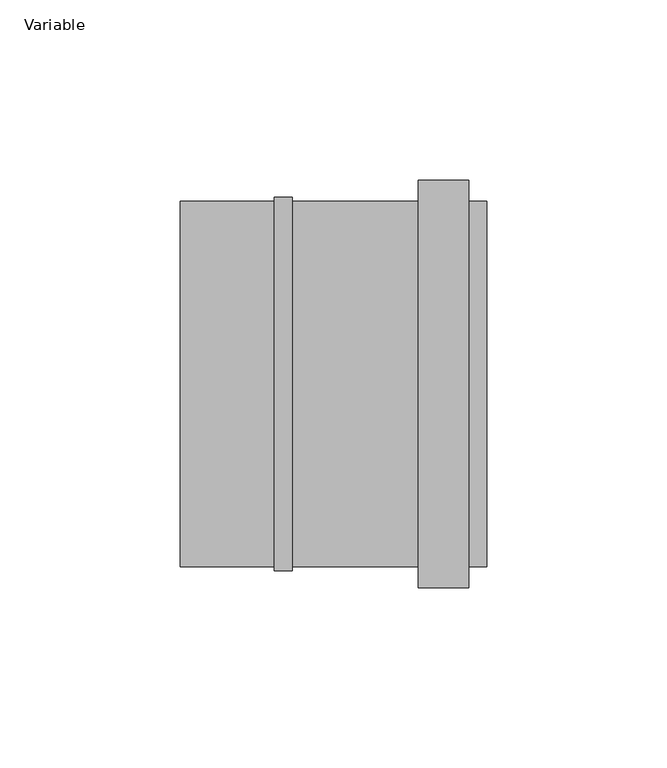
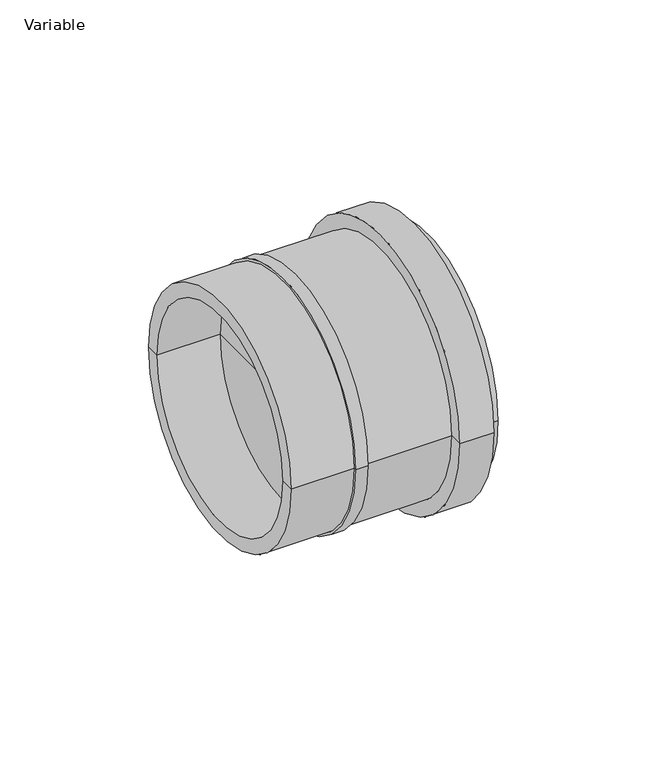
"""IFC4 building model written with IfcOpenShell, lengths in millimetres: pipe fitting geometry, AliaxisFR_Friaphon_MixedCoupling_FR : Variable."""

from ifc_helpers import new_model, si_unit, frame, origin, place, context, project, spatial, polyline, circle_curve, source, transform, mapped, element, save
from ifc_brep_helpers import plane_surface, cylinder_surface, revolved_surface, advanced_brep


def variable_e1d51fd6(model_context):
    return source(origin(), model_context, "Body", "AdvancedBrep", [
        advanced_brep(
        [(57.0, -50.75, 0.0), (57.0, 50.75, 0.0), (57.0, 45.0, 0.0), (57.0, -45.0, 0.0), (52.0, -50.75, 0.0), (52.0, 50.75, 0.0), (52.0, -56.5, 0.0), (52.0, 56.5, 0.0), (38.0, -56.5, 0.0), (38.0, 56.5, 0.0), (38.0, -50.75, 0.0), (38.0, 50.75, 0.0), (3.0, -50.75, 0.0), (3.0, 50.75, 0.0), (-28.0, -45.0, 0.0), (-28.0, 45.0, 0.0), (-28.0, 50.75, 0.0), (-28.0, -50.75, 0.0), (-2.0, -45.0, 0.0), (-2.0, 45.0, 0.0), (-2.0, 0.0, 0.0), (2.0, 45.0, 0.0), (2.0, -45.0, 0.0), (3.0, -51.75, 0.0), (3.0, 51.75, 0.0), (-2.0, -51.75, 0.0), (-2.0, 51.75, 0.0), (-2.0, -50.75, 0.0), (-2.0, 50.75, 0.0), (2.0, 0.0, 0.0)],
        [
            (0, 1, circle_curve(frame((57.0, 0.0, 0.0), z_axis=(1.0, 0.0, 0.0), x_axis=(0.0, 1.0, 0.0)), 50.75)),
            (1, 2),
            (2, 3, circle_curve(frame((57.0, 0.0, 0.0), z_axis=(-1.0, 0.0, 0.0), x_axis=(0.0, 1.0, 0.0)), 45.0)),
            (3, 0),
            (1, 0, circle_curve(frame((57.0, 0.0, 0.0), z_axis=(1.0, 0.0, 0.0), x_axis=(0.0, 1.0, 0.0)), 50.75)),
            (3, 2, circle_curve(frame((57.0, 0.0, 0.0), z_axis=(-1.0, 0.0, 0.0), x_axis=(0.0, 1.0, 0.0)), 45.0)),
            (4, 5, circle_curve(frame((52.0, 0.0, 0.0), z_axis=(1.0, 0.0, 0.0), x_axis=(0.0, 1.0, 0.0)), 50.75)),
            (5, 1),
            (0, 4),
            (5, 4, circle_curve(frame((52.0, 0.0, 0.0), z_axis=(1.0, 0.0, 0.0), x_axis=(0.0, 1.0, 0.0)), 50.75)),
            (6, 7, circle_curve(frame((52.0, 0.0, 0.0), z_axis=(1.0, 0.0, 0.0), x_axis=(0.0, 1.0, 0.0)), 56.5)),
            (7, 5),
            (4, 6),
            (7, 6, circle_curve(frame((52.0, 0.0, 0.0), z_axis=(1.0, 0.0, 0.0), x_axis=(0.0, 1.0, 0.0)), 56.5)),
            (8, 9, circle_curve(frame((38.0, 0.0, 0.0), z_axis=(1.0, 0.0, 0.0), x_axis=(0.0, 1.0, 0.0)), 56.5)),
            (9, 7),
            (6, 8),
            (9, 8, circle_curve(frame((38.0, 0.0, 0.0), z_axis=(1.0, 0.0, 0.0), x_axis=(0.0, 1.0, 0.0)), 56.5)),
            (10, 11, circle_curve(frame((38.0, 0.0, 0.0), z_axis=(1.0, 0.0, 0.0), x_axis=(0.0, 1.0, 0.0)), 50.75)),
            (11, 9),
            (8, 10),
            (11, 10, circle_curve(frame((38.0, 0.0, 0.0), z_axis=(1.0, 0.0, 0.0), x_axis=(0.0, 1.0, 0.0)), 50.75)),
            (12, 13, circle_curve(frame((3.0, 0.0, 0.0), z_axis=(1.0, 0.0, 0.0), x_axis=(0.0, 1.0, 0.0)), 50.75)),
            (13, 11),
            (10, 12),
            (13, 12, circle_curve(frame((3.0, 0.0, 0.0), z_axis=(1.0, 0.0, 0.0), x_axis=(0.0, 1.0, 0.0)), 50.75)),
            (14, 15, circle_curve(frame((-28.0, 0.0, 0.0), z_axis=(1.0, 0.0, 0.0), x_axis=(0.0, 1.0, 0.0)), 45.0)),
            (15, 16),
            (16, 17, circle_curve(frame((-28.0, 0.0, 0.0), z_axis=(-1.0, 0.0, 0.0), x_axis=(0.0, 1.0, 0.0)), 50.75)),
            (17, 14),
            (15, 14, circle_curve(frame((-28.0, 0.0, 0.0), z_axis=(1.0, 0.0, 0.0), x_axis=(0.0, 1.0, 0.0)), 45.0)),
            (17, 16, circle_curve(frame((-28.0, 0.0, 0.0), z_axis=(-1.0, 0.0, 0.0), x_axis=(0.0, 1.0, 0.0)), 50.75)),
            (18, 19, circle_curve(frame((-2.0, 0.0, 0.0), z_axis=(1.0, 0.0, 0.0), x_axis=(0.0, 1.0, 0.0)), 45.0)),
            (19, 15),
            (14, 18),
            (19, 18, circle_curve(frame((-2.0, 0.0, 0.0), z_axis=(1.0, 0.0, 0.0), x_axis=(0.0, 1.0, 0.0)), 45.0)),
            (20, 19),
            (18, 20),
            (2, 21),
            (21, 22, circle_curve(frame((2.0, 0.0, 0.0), z_axis=(-1.0, 0.0, 0.0), x_axis=(0.0, 1.0, 0.0)), 45.0)),
            (22, 3),
            (22, 21, circle_curve(frame((2.0, 0.0, 0.0), z_axis=(-1.0, 0.0, 0.0), x_axis=(0.0, 1.0, 0.0)), 45.0)),
            (23, 24, circle_curve(frame((3.0, 0.0, 0.0), z_axis=(1.0, 0.0, 0.0), x_axis=(0.0, 1.0, 0.0)), 51.75)),
            (24, 13),
            (12, 23),
            (24, 23, circle_curve(frame((3.0, 0.0, 0.0), z_axis=(1.0, 0.0, 0.0), x_axis=(0.0, 1.0, 0.0)), 51.75)),
            (25, 26, circle_curve(frame((-2.0, 0.0, 0.0), z_axis=(1.0, 0.0, 0.0), x_axis=(0.0, 1.0, 0.0)), 51.75)),
            (26, 24),
            (23, 25),
            (26, 25, circle_curve(frame((-2.0, 0.0, 0.0), z_axis=(1.0, 0.0, 0.0), x_axis=(0.0, 1.0, 0.0)), 51.75)),
            (27, 28, circle_curve(frame((-2.0, 0.0, 0.0), z_axis=(1.0, 0.0, 0.0), x_axis=(0.0, 1.0, 0.0)), 50.75)),
            (28, 26),
            (25, 27),
            (28, 27, circle_curve(frame((-2.0, 0.0, 0.0), z_axis=(1.0, 0.0, 0.0), x_axis=(0.0, 1.0, 0.0)), 50.75)),
            (16, 28),
            (27, 17),
            (21, 29),
            (29, 22),
        ],
        [
            plane_surface(frame((57.0, 0.0, 0.0), z_axis=(1.0, 0.0, 0.0), x_axis=(0.0, 1.0, 0.0))),
            cylinder_surface(frame((2005.0, 0.0, 0.0), z_axis=(-1.0, 0.0, 0.0), x_axis=(0.0, 1.0, 0.0)), 50.75),
            plane_surface(frame((52.0, 0.0, 0.0), z_axis=(1.0, 0.0, 0.0), x_axis=(0.0, 1.0, 0.0))),
            cylinder_surface(frame((2005.0, 0.0, 0.0), z_axis=(-1.0, 0.0, 0.0), x_axis=(0.0, 1.0, 0.0)), 56.5),
            plane_surface(frame((38.0, 0.0, 0.0), z_axis=(-1.0, 0.0, 0.0), x_axis=(0.0, 1.0, 0.0))),
            plane_surface(frame((-28.0, 0.0, 0.0), z_axis=(-1.0, 0.0, 0.0), x_axis=(0.0, 1.0, 0.0))),
            revolved_surface(polyline([(-28.0, 45.0, 0.0), (-2.0, 45.0, 0.0)]), (2005.0, 0.0, 0.0), (-1.0, 0.0, 0.0)),
            plane_surface(frame((-2.0, 0.0, 0.0), z_axis=(-1.0, 0.0, 0.0), x_axis=(0.0, 1.0, 0.0))),
            revolved_surface(polyline([(2.0, 45.0, 0.0), (57.0, 45.0, 0.0)]), (2005.0, 0.0, 0.0), (-1.0, 0.0, 0.0)),
            plane_surface(frame((3.0, 0.0, 0.0), z_axis=(1.0, 0.0, 0.0), x_axis=(0.0, 1.0, 0.0))),
            cylinder_surface(frame((2005.0, 0.0, 0.0), z_axis=(-1.0, 0.0, 0.0), x_axis=(0.0, 1.0, 0.0)), 51.75),
            plane_surface(frame((2.0, 0.0, 0.0), z_axis=(1.0, 0.0, 0.0), x_axis=(0.0, 1.0, 0.0))),
        ],
        [
            (0, [[1, 2, 3, 4]]),
            (0, [[5, -4, 6, -2]]),
            (1, [[7, 8, -1, 9]]),
            (1, [[10, -9, -5, -8]]),
            (2, [[11, 12, -7, 13]]),
            (2, [[14, -13, -10, -12]]),
            (3, [[15, 16, -11, 17]]),
            (3, [[18, -17, -14, -16]]),
            (4, [[19, 20, -15, 21]]),
            (4, [[22, -21, -18, -20]]),
            (1, [[23, 24, -19, 25]]),
            (1, [[26, -25, -22, -24]]),
            (5, [[27, 28, 29, 30]]),
            (5, [[31, -30, 32, -28]]),
            (6, [[33, 34, -27, 35]]),
            (6, [[36, -35, -31, -34]]),
            (7, [[37, -33, 38]]),
            (7, [[-38, -36, -37]]),
            (8, [[-3, 39, 40, 41]]),
            (8, [[-6, -41, 42, -39]]),
            (9, [[43, 44, -23, 45]]),
            (9, [[46, -45, -26, -44]]),
            (10, [[47, 48, -43, 49]]),
            (10, [[50, -49, -46, -48]]),
            (7, [[51, 52, -47, 53]]),
            (7, [[54, -53, -50, -52]]),
            (1, [[-29, 55, -51, 56]]),
            (1, [[-32, -56, -54, -55]]),
            (11, [[-40, 57, 58]]),
            (11, [[-42, -58, -57]]),
        ],
    ),
    ])


if __name__ == "__main__":
    model = new_model("IFC4")
    model_context = context("Model", 3, world=origin())
    ifc_project = project(units=[si_unit("LENGTHUNIT", "METRE", prefix="MILLI")], contexts=[model_context])
    site = spatial("IfcSite", under=ifc_project)
    building = spatial("IfcBuilding", under=site)
    placement = place(None, origin())
    variable_shape = variable_e1d51fd6(model_context)
    element("IfcPipeFitting", 1, ObjectType="AliaxisFR_Friaphon_MixedCoupling_FR : Variable", at=placement, inside=building, context=model_context, shape_type="MappedRepresentation", body=[
        mapped(variable_shape, transform((0.0, 0.0, 0.0), x_axis=(1.0, 0.0, 0.0), y_axis=(0.0, 1.0, 0.0), z_axis=(0.0, 0.0, 1.0))),
    ])
    save(model, "model.ifc")
